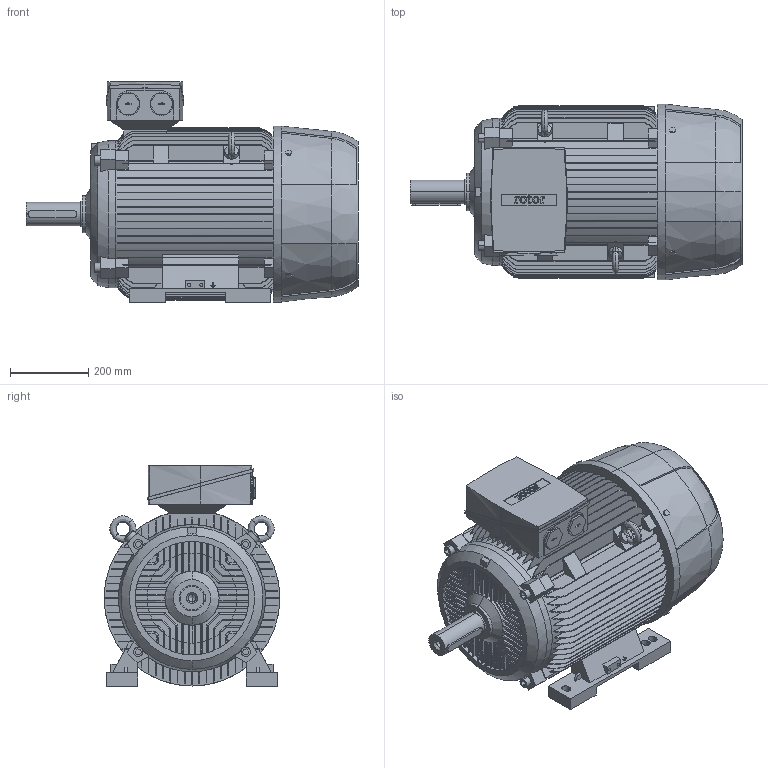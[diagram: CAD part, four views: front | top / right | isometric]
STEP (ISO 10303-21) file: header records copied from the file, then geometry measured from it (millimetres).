
FILE_DESCRIPTION (( 'STEP AP203' ), '1' );
FILE_NAME ('6RN225M06E26 IM1041.STEP', '2017-01-03T13:56:03', ( 'rotor' ), ( 'Hewlett-Packard Company' ), 'SwSTEP 2.0', 'SolidWorks 2015', '' );
FILE_SCHEMA (( 'CONFIG_CONTROL_DESIGN' ));
Length unit declared in the file: millimetre
Products named in the file (1): 6RN225M06E26 IM1041
Bounding box: 848 x 449 x 563 mm (x, y, z)
Volume: 92246592.6 mm3; surface area: 3077420.7 mm2
Topology: 1 solids, 1 shells, 1377 faces, 3895 edges, 2559 vertices
Faces by surface type: plane 840, cylinder 287, bspline 223, cone 27
Entity records: 55963 total; most frequent: CARTESIAN_POINT 22921, ORIENTED_EDGE 7778, DIRECTION 5620, EDGE_CURVE 3889, VERTEX_POINT 2559, VECTOR 2212, LINE 2212, AXIS2_PLACEMENT_3D 1704
